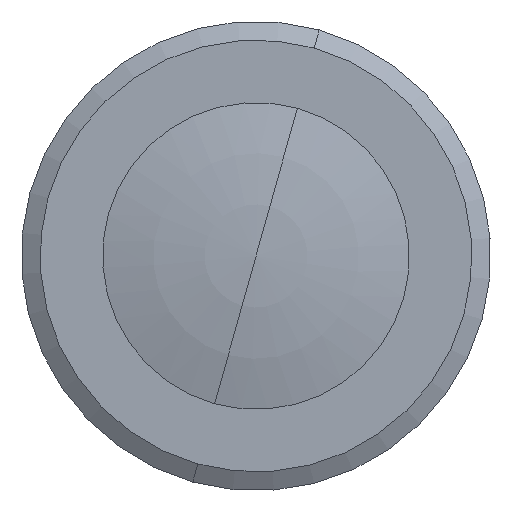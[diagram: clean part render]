
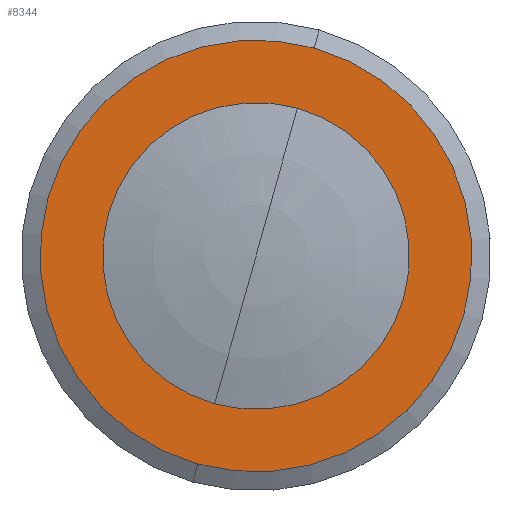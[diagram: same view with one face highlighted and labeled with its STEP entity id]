
A CAD part, left-side view. The second image highlights one B-rep face of the part: STEP entity #8344.
In plain terms, the highlighted planar face has unit normal (-1, 0, 0).
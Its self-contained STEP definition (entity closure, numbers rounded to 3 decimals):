
#8 = CARTESIAN_POINT ( 'NONE',  ( 9.037, 0., 4.25 ) ) ;
#141 = DIRECTION ( 'NONE',  ( 0., 0., 1. ) ) ;
#142 = DIRECTION ( 'NONE',  ( -1., 0., 0. ) ) ;
#144 = CARTESIAN_POINT ( 'NONE',  ( 9.037, 0., 0. ) ) ;
#145 = DIRECTION ( 'NONE',  ( 0., 0., 1. ) ) ;
#146 = DIRECTION ( 'NONE',  ( -1., 0., 0. ) ) ;
#147 = CARTESIAN_POINT ( 'NONE',  ( 9.037, 0., 0. ) ) ;
#354 = DIRECTION ( 'NONE',  ( 0., 0., -1. ) ) ;
#355 = DIRECTION ( 'NONE',  ( 1., 0., 0. ) ) ;
#357 = PLANE ( 'NONE',  #4510 ) ;
#360 = CARTESIAN_POINT ( 'NONE',  ( 9.037, 4.25, 0. ) ) ;
#2317 = VERTEX_POINT ( 'NONE', #8 ) ;
#2618 = VERTEX_POINT ( 'NONE', #8179 ) ;
#2668 = VERTEX_POINT ( 'NONE', #8163 ) ;
#2697 = VERTEX_POINT ( 'NONE', #8149 ) ;
#3046 = EDGE_LOOP ( 'NONE', ( #7324, #7327 ) ) ;
#3048 = EDGE_LOOP ( 'NONE', ( #7326, #7329 ) ) ;
#3301 = DIRECTION ( 'NONE',  ( 0., 0., 1. ) ) ;
#3345 = DIRECTION ( 'NONE',  ( -1., 0., 0. ) ) ;
#3370 = CARTESIAN_POINT ( 'NONE',  ( 9.037, 0., 0. ) ) ;
#4306 = EDGE_CURVE ( 'NONE', #2618, #2317, #7227, .T. ) ;
#4307 = EDGE_CURVE ( 'NONE', #2668, #2697, #7224, .T. ) ;
#4334 = EDGE_CURVE ( 'NONE', #2317, #2618, #7204, .T. ) ;
#4510 = AXIS2_PLACEMENT_3D ( 'NONE', #360, #355, #354 ) ;
#4562 = AXIS2_PLACEMENT_3D ( 'NONE', #3370, #3345, #3301 ) ;
#4636 = AXIS2_PLACEMENT_3D ( 'NONE', #8468, #8467, #8466 ) ;
#4652 = AXIS2_PLACEMENT_3D ( 'NONE', #144, #142, #141 ) ;
#4653 = AXIS2_PLACEMENT_3D ( 'NONE', #147, #146, #145 ) ;
#4870 = EDGE_CURVE ( 'NONE', #2697, #2668, #7004, .T. ) ;
#6876 = FACE_OUTER_BOUND ( 'NONE', #3048, .T. ) ;
#6883 = FACE_BOUND ( 'NONE', #3046, .T. ) ;
#7004 = CIRCLE ( 'NONE', #4562, 5.98 ) ;
#7204 = CIRCLE ( 'NONE', #4636, 4.25 ) ;
#7224 = CIRCLE ( 'NONE', #4652, 5.98 ) ;
#7227 = CIRCLE ( 'NONE', #4653, 4.25 ) ;
#7324 = ORIENTED_EDGE ( 'NONE', *, *, #4334, .F. ) ;
#7326 = ORIENTED_EDGE ( 'NONE', *, *, #4307, .T. ) ;
#7327 = ORIENTED_EDGE ( 'NONE', *, *, #4306, .F. ) ;
#7329 = ORIENTED_EDGE ( 'NONE', *, *, #4870, .T. ) ;
#8149 = CARTESIAN_POINT ( 'NONE',  ( 9.037, 0., 5.98 ) ) ;
#8163 = CARTESIAN_POINT ( 'NONE',  ( 9.037, 0., -5.98 ) ) ;
#8179 = CARTESIAN_POINT ( 'NONE',  ( 9.037, 0., -4.25 ) ) ;
#8344 = ADVANCED_FACE ( 'NONE', ( #6883, #6876 ), #357, .F. ) ;
#8466 = DIRECTION ( 'NONE',  ( 0., 0., 1. ) ) ;
#8467 = DIRECTION ( 'NONE',  ( -1., 0., 0. ) ) ;
#8468 = CARTESIAN_POINT ( 'NONE',  ( 9.037, 0., 0. ) ) ;
